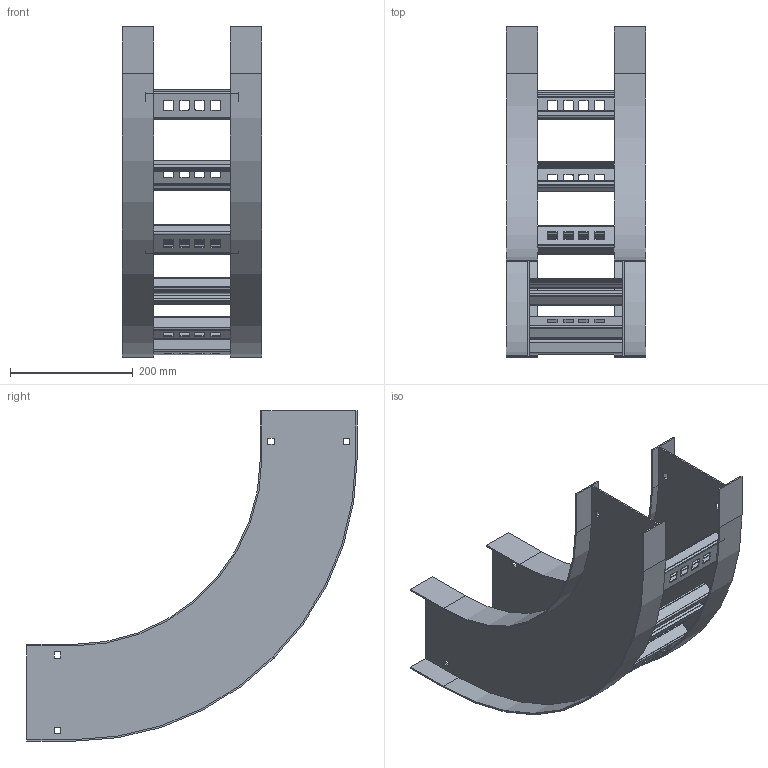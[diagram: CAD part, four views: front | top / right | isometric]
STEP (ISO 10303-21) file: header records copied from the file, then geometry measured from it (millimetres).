
FILE_DESCRIPTION((''),'2;1');
FILE_NAME('AHF606VVI9012_ASM','2010-01-28T',('erouzier'),(''),'PRO/ENGINEER BY PARAMETRIC TECHNOLOGY CORPORATION, 2008510','PRO/ENGINEER BY PARAMETRIC TECHNOLOGY CORPORATION, 2008510','');
FILE_SCHEMA(('CONFIG_CONTROL_DESIGN'));
Length unit declared in the file: inch
Products named in the file (3): CDS001658_6_90_12; CDS002159L6-P; AHF606VVI9012_ASM
Assembly tree (8 placements, depth 2):
  AHF606VVI9012_ASM
    CDS001658_6_90_12  x2
    CDS002159L6-P  x6
Bounding box: 226.82 x 538.99 x 538.99 mm (x, y, z)
Volume: 1094628.7 mm3; surface area: 985353.6 mm2
Topology: 8 solids, 8 shells, 456 faces, 1320 edges, 880 vertices
Faces by surface type: plane 282, cylinder 174
Entity records: 3584 total; most frequent: CARTESIAN_POINT 615, ORIENTED_EDGE 600, DIRECTION 596, EDGE_CURVE 300, VECTOR 234, LINE 234, VERTEX_POINT 200, AXIS2_PLACEMENT_3D 181
